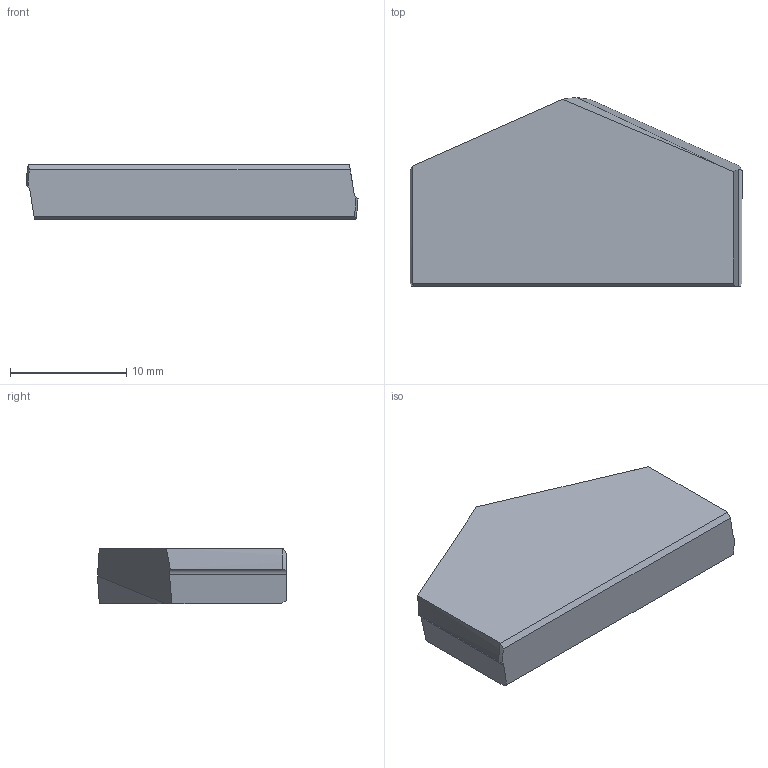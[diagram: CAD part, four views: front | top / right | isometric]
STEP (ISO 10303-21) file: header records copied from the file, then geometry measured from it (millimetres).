
FILE_DESCRIPTION (( 'STEP AP214' ), '1' );
FILE_NAME ('1.1-8.STEP', '2022-06-24T05:47:56', ( '' ), ( '' ), 'SwSTEP 2.0', 'SolidWorks 2018', '' );
FILE_SCHEMA (( 'AUTOMOTIVE_DESIGN' ));
Length unit declared in the file: millimetre
Products named in the file (1): 1.1-8
Bounding box: 28.56 x 16.25 x 4.8 mm (x, y, z)
Volume: 1752.4 mm3; surface area: 1093.5 mm2
Topology: 1 solids, 1 shells, 17 faces, 44 edges, 29 vertices
Faces by surface type: plane 11, cylinder 4, cone 2
Entity records: 554 total; most frequent: CARTESIAN_POINT 121, ORIENTED_EDGE 88, DIRECTION 76, EDGE_CURVE 44, VERTEX_POINT 29, LINE 28, VECTOR 28, AXIS2_PLACEMENT_3D 24
